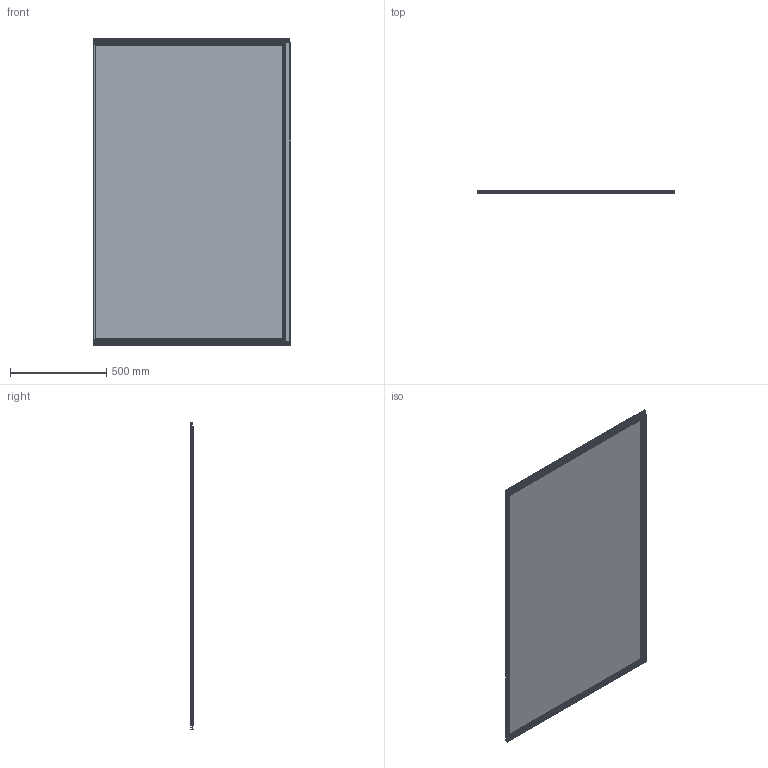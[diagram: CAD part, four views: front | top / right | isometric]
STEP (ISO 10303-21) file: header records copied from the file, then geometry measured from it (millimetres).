
FILE_DESCRIPTION(/* description */ ('PV-Modul Solrif N'),/* implementation_level */ '2;1');
FILE_NAME(/* name */ 'O:\S_Sonnenenergie\Entwicklung\40 Produkte\Bilder und CAD-Daten für Kunden\Solrif\01 CAD Datensätze\1593x1025 PV-Modul CS Wismar M54\H107072 PV-Modul 1593x1025.stp',/* time_stamp */ '2021-02-21T12:03:16+01:00',/* author */ ('rog2545'),/* organization */ (''),/* preprocessor_version */ 'ST-DEVELOPER v17',/* originating_system */ 'Autodesk Inventor 2019',/* authorisation */ '');
FILE_SCHEMA (('AUTOMOTIVE_DESIGN { 1 0 10303 214 3 1 1 }'));
Length unit declared in the file: millimetre
Products named in the file (1): H107072
Bounding box: 1024.5 x 18 x 1593 mm (x, y, z)
Volume: 6938382.3 mm3; surface area: 3914977 mm2
Topology: 6 solids, 6 shells, 375 faces, 1084 edges, 721 vertices
Faces by surface type: cylinder 187, plane 186, cone 2
Full cylindrical faces by diameter (mm): 3.3 x2, 4.8 x2
Entity records: 12895 total; most frequent: DIRECTION 2216, CARTESIAN_POINT 2181, ORIENTED_EDGE 2168, EDGE_CURVE 1084, AXIS2_PLACEMENT_3D 756, VERTEX_POINT 721, LINE 704, VECTOR 704
